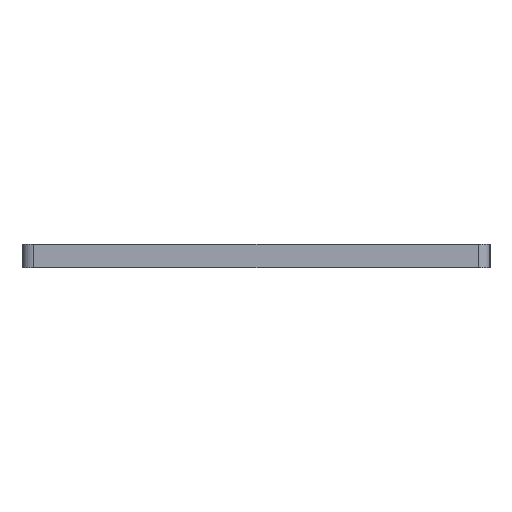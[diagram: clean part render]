
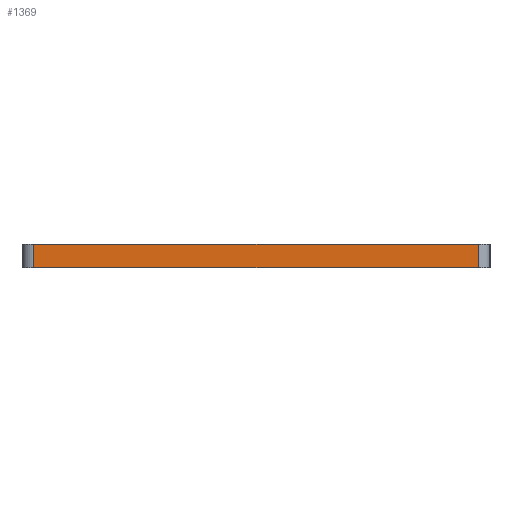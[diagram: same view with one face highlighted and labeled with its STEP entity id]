
A CAD part, left-side view. The second image highlights one B-rep face of the part: STEP entity #1369.
In plain terms, the highlighted planar face has unit normal (-1, 0, 0).
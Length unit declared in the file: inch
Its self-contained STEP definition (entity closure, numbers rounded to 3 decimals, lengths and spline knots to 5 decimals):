
#168 = VECTOR ( 'NONE', #282, 39.37008 ) ;
#173 = AXIS2_PLACEMENT_3D ( 'NONE', #250, #736, #1105 ) ;
#176 = ORIENTED_EDGE ( 'NONE', *, *, #1264, .T. ) ;
#196 = VECTOR ( 'NONE', #1031, 39.37008 ) ;
#202 = LINE ( 'NONE', #363, #1018 ) ;
#208 = ORIENTED_EDGE ( 'NONE', *, *, #1054, .T. ) ;
#250 = CARTESIAN_POINT ( 'NONE',  ( 0., 0., 0.125 ) ) ;
#263 = FACE_OUTER_BOUND ( 'NONE', #915, .T. ) ;
#273 = CARTESIAN_POINT ( 'NONE',  ( 0., -4.875, -0.125 ) ) ;
#282 = DIRECTION ( 'NONE',  ( 0., -1., 0. ) ) ;
#311 = LINE ( 'NONE', #772, #196 ) ;
#363 = CARTESIAN_POINT ( 'NONE',  ( 0., -4.875, 0.125 ) ) ;
#538 = ORIENTED_EDGE ( 'NONE', *, *, #558, .F. ) ;
#554 = LINE ( 'NONE', #710, #1517 ) ;
#558 = EDGE_CURVE ( 'NONE', #1460, #1076, #554, .T. ) ;
#675 = EDGE_CURVE ( 'NONE', #1460, #1141, #311, .T. ) ;
#710 = CARTESIAN_POINT ( 'NONE',  ( 0., 0., 0.125 ) ) ;
#736 = DIRECTION ( 'NONE',  ( 1., 0., 0. ) ) ;
#772 = CARTESIAN_POINT ( 'NONE',  ( 0., -0.125, 0.125 ) ) ;
#915 = EDGE_LOOP ( 'NONE', ( #538, #1063, #208, #176 ) ) ;
#934 = LINE ( 'NONE', #1391, #168 ) ;
#1010 = VERTEX_POINT ( 'NONE', #273 ) ;
#1018 = VECTOR ( 'NONE', #1093, 39.37008 ) ;
#1031 = DIRECTION ( 'NONE',  ( 0., 0., -1. ) ) ;
#1054 = EDGE_CURVE ( 'NONE', #1141, #1010, #934, .T. ) ;
#1063 = ORIENTED_EDGE ( 'NONE', *, *, #675, .T. ) ;
#1076 = VERTEX_POINT ( 'NONE', #1120 ) ;
#1093 = DIRECTION ( 'NONE',  ( 0., 0., 1. ) ) ;
#1105 = DIRECTION ( 'NONE',  ( 0., 1., 0. ) ) ;
#1113 = PLANE ( 'NONE',  #173 ) ;
#1120 = CARTESIAN_POINT ( 'NONE',  ( 0., -4.875, 0.125 ) ) ;
#1133 = CARTESIAN_POINT ( 'NONE',  ( 0., -0.125, 0.125 ) ) ;
#1141 = VERTEX_POINT ( 'NONE', #1527 ) ;
#1264 = EDGE_CURVE ( 'NONE', #1010, #1076, #202, .T. ) ;
#1369 = ADVANCED_FACE ( 'NONE', ( #263 ), #1113, .F. ) ;
#1391 = CARTESIAN_POINT ( 'NONE',  ( 0., 0., -0.125 ) ) ;
#1460 = VERTEX_POINT ( 'NONE', #1133 ) ;
#1517 = VECTOR ( 'NONE', #1587, 39.37008 ) ;
#1527 = CARTESIAN_POINT ( 'NONE',  ( 0., -0.125, -0.125 ) ) ;
#1587 = DIRECTION ( 'NONE',  ( 0., -1., 0. ) ) ;
